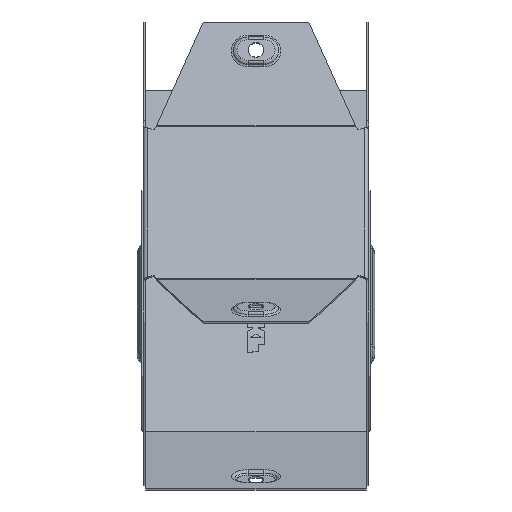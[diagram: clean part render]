
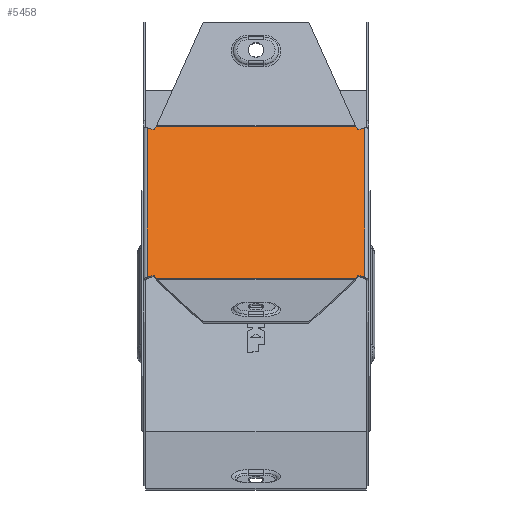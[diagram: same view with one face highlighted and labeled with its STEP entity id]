
A CAD part, front view. The second image highlights one B-rep face of the part: STEP entity #5458.
In plain terms, the highlighted planar face has unit normal (0, -0.707, 0.707).
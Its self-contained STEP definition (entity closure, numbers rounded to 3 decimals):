
#29 = LINE ( 'NONE', #398, #6902 ) ;
#97 = CARTESIAN_POINT ( 'NONE',  ( 44.345, 69.859, -2.258 ) ) ;
#159 = CARTESIAN_POINT ( 'NONE',  ( -45.217, 3.747, -68.371 ) ) ;
#227 = DIRECTION ( 'NONE',  ( -0.383, 0.653, 0.653 ) ) ;
#398 = CARTESIAN_POINT ( 'NONE',  ( -50.299, 69.859, -2.258 ) ) ;
#453 = EDGE_CURVE ( 'NONE', #10093, #11290, #3561, .T. ) ;
#513 = VECTOR ( 'NONE', #4838, 1000. ) ;
#586 = VECTOR ( 'NONE', #227, 1000. ) ;
#812 = VECTOR ( 'NONE', #6184, 1000. ) ;
#1035 = DIRECTION ( 'NONE',  ( -0.924, -0.271, -0.271 ) ) ;
#1200 = EDGE_CURVE ( 'NONE', #2214, #7444, #11234, .T. ) ;
#1253 = CARTESIAN_POINT ( 'NONE',  ( -44.345, 69.859, -2.258 ) ) ;
#1261 = LINE ( 'NONE', #8036, #3502 ) ;
#1507 = ORIENTED_EDGE ( 'NONE', *, *, #8055, .T. ) ;
#1603 = CARTESIAN_POINT ( 'NONE',  ( 23.5, -33.327, -105.445 ) ) ;
#1624 = DIRECTION ( 'NONE',  ( 0., 0.707, 0.707 ) ) ;
#1633 = VERTEX_POINT ( 'NONE', #10155 ) ;
#1946 = EDGE_CURVE ( 'NONE', #11149, #2105, #10385, .T. ) ;
#2044 = CARTESIAN_POINT ( 'NONE',  ( -48.2, 2.873, -69.245 ) ) ;
#2105 = VERTEX_POINT ( 'NONE', #11295 ) ;
#2151 = EDGE_CURVE ( 'NONE', #7444, #10778, #5379, .T. ) ;
#2195 = LINE ( 'NONE', #4447, #3741 ) ;
#2214 = VERTEX_POINT ( 'NONE', #5110 ) ;
#2706 = CARTESIAN_POINT ( 'NONE',  ( 48.2, 70., -2.118 ) ) ;
#2905 = ORIENTED_EDGE ( 'NONE', *, *, #10784, .T. ) ;
#2975 = EDGE_CURVE ( 'NONE', #8472, #2105, #11039, .T. ) ;
#3054 = ORIENTED_EDGE ( 'NONE', *, *, #453, .T. ) ;
#3239 = CARTESIAN_POINT ( 'NONE',  ( 48.2, 70., -2.118 ) ) ;
#3242 = LINE ( 'NONE', #11260, #6216 ) ;
#3248 = VECTOR ( 'NONE', #9340, 1000. ) ;
#3270 = ORIENTED_EDGE ( 'NONE', *, *, #9536, .F. ) ;
#3368 = ORIENTED_EDGE ( 'NONE', *, *, #2975, .T. ) ;
#3438 = ORIENTED_EDGE ( 'NONE', *, *, #1946, .F. ) ;
#3502 = VECTOR ( 'NONE', #3625, 1000. ) ;
#3561 = LINE ( 'NONE', #8923, #6253 ) ;
#3575 = DIRECTION ( 'NONE',  ( 0.383, -0.653, -0.653 ) ) ;
#3625 = DIRECTION ( 'NONE',  ( -1., 0., 0. ) ) ;
#3673 = VERTEX_POINT ( 'NONE', #10852 ) ;
#3741 = VECTOR ( 'NONE', #3575, 1000. ) ;
#3807 = VERTEX_POINT ( 'NONE', #5638 ) ;
#4160 = ORIENTED_EDGE ( 'NONE', *, *, #5884, .T. ) ;
#4164 = LINE ( 'NONE', #1603, #812 ) ;
#4219 = CARTESIAN_POINT ( 'NONE',  ( 48.2, 69.859, -2.258 ) ) ;
#4369 = VECTOR ( 'NONE', #7915, 1000. ) ;
#4447 = CARTESIAN_POINT ( 'NONE',  ( -45.217, 3.747, -68.371 ) ) ;
#4626 = CARTESIAN_POINT ( 'NONE',  ( 50.299, 69.859, -2.258 ) ) ;
#4838 = DIRECTION ( 'NONE',  ( 0., -0.707, -0.707 ) ) ;
#5110 = CARTESIAN_POINT ( 'NONE',  ( 45.217, 68.371, -3.747 ) ) ;
#5319 = LINE ( 'NONE', #8438, #513 ) ;
#5331 = EDGE_LOOP ( 'NONE', ( #6300, #3368, #3438, #1507, #11386, #6911, #6271, #4160, #2905, #3054, #11303, #3270 ) ) ;
#5379 = LINE ( 'NONE', #4219, #4369 ) ;
#5458 = ADVANCED_FACE ( 'NONE', ( #9322 ), #9587, .F. ) ;
#5638 = CARTESIAN_POINT ( 'NONE',  ( 44.345, 2.258, -69.859 ) ) ;
#5884 = EDGE_CURVE ( 'NONE', #3673, #1633, #29, .T. ) ;
#6184 = DIRECTION ( 'NONE',  ( 0.383, 0.653, 0.653 ) ) ;
#6216 = VECTOR ( 'NONE', #11339, 1000. ) ;
#6253 = VECTOR ( 'NONE', #10585, 1000. ) ;
#6271 = ORIENTED_EDGE ( 'NONE', *, *, #6560, .T. ) ;
#6300 = ORIENTED_EDGE ( 'NONE', *, *, #10474, .T. ) ;
#6560 = EDGE_CURVE ( 'NONE', #10778, #3673, #3242, .T. ) ;
#6802 = DIRECTION ( 'NONE',  ( 0.924, -0.271, -0.271 ) ) ;
#6902 = VECTOR ( 'NONE', #11241, 1000. ) ;
#6911 = ORIENTED_EDGE ( 'NONE', *, *, #2151, .T. ) ;
#7286 = CARTESIAN_POINT ( 'NONE',  ( 23.5, 105.445, 33.327 ) ) ;
#7444 = VERTEX_POINT ( 'NONE', #97 ) ;
#7693 = VECTOR ( 'NONE', #1035, 1000. ) ;
#7915 = DIRECTION ( 'NONE',  ( -1., 0., 0. ) ) ;
#8036 = CARTESIAN_POINT ( 'NONE',  ( 48.2, 2.258, -69.859 ) ) ;
#8055 = EDGE_CURVE ( 'NONE', #11149, #2214, #11183, .T. ) ;
#8120 = VECTOR ( 'NONE', #6802, 1000. ) ;
#8438 = CARTESIAN_POINT ( 'NONE',  ( -48.2, 70., -2.118 ) ) ;
#8472 = VERTEX_POINT ( 'NONE', #9793 ) ;
#8621 = CARTESIAN_POINT ( 'NONE',  ( 50.299, 2.258, -69.859 ) ) ;
#8923 = CARTESIAN_POINT ( 'NONE',  ( -50.299, 2.258, -69.859 ) ) ;
#9277 = VERTEX_POINT ( 'NONE', #9475 ) ;
#9322 = FACE_OUTER_BOUND ( 'NONE', #5331, .T. ) ;
#9340 = DIRECTION ( 'NONE',  ( 0., -0.707, -0.707 ) ) ;
#9475 = CARTESIAN_POINT ( 'NONE',  ( -44.345, 2.258, -69.859 ) ) ;
#9511 = DIRECTION ( 'NONE',  ( 0., 0.707, -0.707 ) ) ;
#9536 = EDGE_CURVE ( 'NONE', #3807, #9277, #1261, .T. ) ;
#9587 = PLANE ( 'NONE',  #11503 ) ;
#9793 = CARTESIAN_POINT ( 'NONE',  ( 45.217, 3.747, -68.371 ) ) ;
#9815 = CARTESIAN_POINT ( 'NONE',  ( 48.2, 69.245, -2.873 ) ) ;
#10093 = VERTEX_POINT ( 'NONE', #2044 ) ;
#10155 = CARTESIAN_POINT ( 'NONE',  ( -48.2, 69.245, -2.873 ) ) ;
#10385 = LINE ( 'NONE', #2706, #3248 ) ;
#10474 = EDGE_CURVE ( 'NONE', #3807, #8472, #4164, .T. ) ;
#10585 = DIRECTION ( 'NONE',  ( 0.924, 0.271, 0.271 ) ) ;
#10778 = VERTEX_POINT ( 'NONE', #1253 ) ;
#10784 = EDGE_CURVE ( 'NONE', #1633, #10093, #5319, .T. ) ;
#10852 = CARTESIAN_POINT ( 'NONE',  ( -45.217, 68.371, -3.747 ) ) ;
#11039 = LINE ( 'NONE', #8621, #8120 ) ;
#11129 = EDGE_CURVE ( 'NONE', #11290, #9277, #2195, .T. ) ;
#11149 = VERTEX_POINT ( 'NONE', #9815 ) ;
#11183 = LINE ( 'NONE', #4626, #7693 ) ;
#11234 = LINE ( 'NONE', #7286, #586 ) ;
#11241 = DIRECTION ( 'NONE',  ( -0.924, 0.271, 0.271 ) ) ;
#11260 = CARTESIAN_POINT ( 'NONE',  ( -45.217, 68.371, -3.747 ) ) ;
#11290 = VERTEX_POINT ( 'NONE', #159 ) ;
#11295 = CARTESIAN_POINT ( 'NONE',  ( 48.2, 2.873, -69.245 ) ) ;
#11303 = ORIENTED_EDGE ( 'NONE', *, *, #11129, .T. ) ;
#11339 = DIRECTION ( 'NONE',  ( -0.383, -0.653, -0.653 ) ) ;
#11386 = ORIENTED_EDGE ( 'NONE', *, *, #1200, .T. ) ;
#11503 = AXIS2_PLACEMENT_3D ( 'NONE', #3239, #9511, #1624 ) ;
